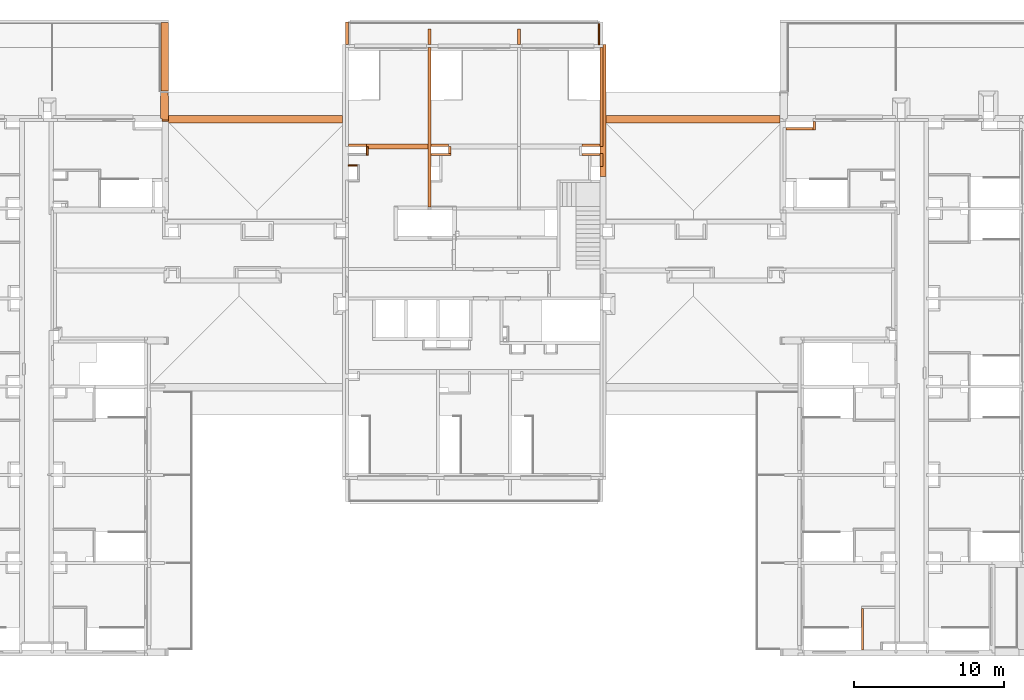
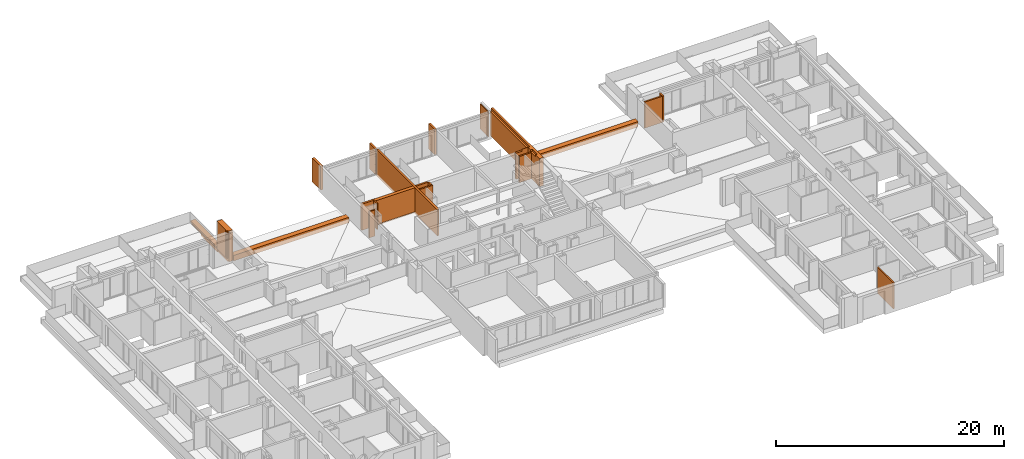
# One storey, part 25 of 30: 22 proxies, 1 opening.
"""IFC2X3 building model written with IfcOpenShell, lengths in millimetres."""

from ifc_helpers import new_model, entity, si_unit, converted_unit, derived_unit, money_unit, direction, frame, origin_with_axes, origin_2d_with_axis, place, context, subcontext, project, spatial, rectangle, extrude, faceted_brep, material, material_list, type_object, element, save


model = new_model("IFC2X3")

# Units and contexts
model_context = context("Model", 3, precision=0.01, world=origin_with_axes(), true_north=direction((0.34421633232, 0.938890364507)))
body_context = subcontext(model_context, "Body", "Model", "MODEL_VIEW")
ifc_project = project(units=[si_unit("LENGTHUNIT", "METRE", prefix="MILLI"), si_unit("AREAUNIT", "SQUARE_METRE"), si_unit("VOLUMEUNIT", "CUBIC_METRE"), converted_unit("PLANEANGLEUNIT", "DEGREE", entity("IfcPlaneAngleMeasure", 0.0174532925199), si_unit("PLANEANGLEUNIT", "RADIAN"), dimensions=[0, 0, 0, 0, 0, 0, 0]), si_unit("SOLIDANGLEUNIT", "STERADIAN"), money_unit("USD"), converted_unit("TIMEUNIT", "Year", entity("IfcTimeMeasure", 31556926.0), si_unit("TIMEUNIT", "SECOND"), dimensions=[0, 0, 1, 0, 0, 0, 0]), si_unit("MASSUNIT", "GRAM", prefix="KILO"), si_unit("THERMODYNAMICTEMPERATUREUNIT", "DEGREE_CELSIUS"), si_unit("LUMINOUSINTENSITYUNIT", "LUMEN"), si_unit("ENERGYUNIT", "JOULE", prefix="MEGA"), derived_unit("THERMALCONDUCTANCEUNIT", [(si_unit("POWERUNIT", "WATT"), 1), (si_unit("LENGTHUNIT", "METRE"), -1), (si_unit("THERMODYNAMICTEMPERATUREUNIT", "KELVIN"), -1)]), derived_unit("SPECIFICHEATCAPACITYUNIT", [(si_unit("ENERGYUNIT", "JOULE"), 1), (si_unit("MASSUNIT", "GRAM", prefix="KILO"), -1), (si_unit("THERMODYNAMICTEMPERATUREUNIT", "KELVIN"), -1)]), derived_unit("MASSDENSITYUNIT", [(si_unit("MASSUNIT", "GRAM", prefix="KILO"), 1), (si_unit("VOLUMEUNIT", "CUBIC_METRE"), -1)])], contexts=[model_context])

# Site, building, storey
site_placement = place(None, origin_with_axes())
site = spatial("IfcSite", under=ifc_project, at=site_placement, Name="USTRONIE MORSKIE", CompositionType="ELEMENT")
building_placement = place(site_placement, origin_with_axes())
building = spatial("IfcBuilding", under=site, at=building_placement, Name="Budynek", CompositionType="ELEMENT")
storey_placement = place(building_placement, frame((0.0, 0.0, 16000.0), z_axis=(0.0, 0.0, 1.0), x_axis=(1.0, 0.0, 0.0)))
storey = spatial("IfcBuildingStorey", under=building, at=storey_placement, Name="ANTRESOLA - KOND. TECHNICZNA", CompositionType="ELEMENT", Elevation=16000.0)

# Proxies
ifc_material_1 = material(Name="Bloczki silikatowe")
building_element_proxy_type_1 = type_object("IfcBuildingElementProxyType", Name="Bloczki silikatowe 120", PredefinedType="NOTDEFINED")
proxy_1_placement = place(storey_placement, frame((380617.911959, 743031.199021, -160.0), z_axis=(0.0, 0.0, 1.0), x_axis=(0.0, -1.0, 0.0)))
element("IfcBuildingElementProxy", 1, at=proxy_1_placement, inside=storey, type_object=building_element_proxy_type_1, material=ifc_material_1, Name="SW-04", context=body_context, shape_type="Brep", body=[
    faceted_brep([(659.999084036, 120.0, 0.0), (90.0, 120.0, 0.0), (90.0, 120.0, 2800.0), (659.999084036, 120.0, 2800.0), (659.999084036, 0.0, 0.0), (90.0, 0.0, 0.0), (90.0, 0.0, 2800.0), (659.999084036, 0.0, 2800.0)], [[[0, 1, 2, 3]], [[4, 5, 1, 0]], [[5, 6, 2, 1]], [[3, 2, 6, 7]], [[4, 0, 3, 7]], [[7, 6, 5, 4]]]),
])
proxy_2_placement = place(storey_placement, frame((413777.920919, 712141.199036, -159.999998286), z_axis=(0.0, 0.0, 1.0), x_axis=(0.0, -1.0, 0.0)))
element("IfcBuildingElementProxy", 2, at=proxy_2_placement, inside=storey, type_object=building_element_proxy_type_1, material=ifc_material_1, Name="SW-04", context=body_context, shape_type="Brep", body=[
    faceted_brep([(2839.99999956, -59.9999999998, 2800.0), (2839.99999956, 60.0000000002, 2800.0), (59.9999999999, 60.0, 2800.0), (59.9999999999, -60.0, 2800.0), (2839.99999956, -59.9999999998, 0.0), (2839.99999956, 60.0000000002, 0.0), (59.9999999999, 60.0, 0.0), (59.9999999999, -60.0, 0.0)], [[[0, 1, 2, 3]], [[1, 0, 4, 5]], [[1, 5, 6, 2]], [[7, 3, 2, 6]], [[4, 0, 3, 7]], [[5, 4, 7, 6]]]),
])
proxy_3_placement = place(storey_placement, frame((379317.920919, 741621.189659, -160.0), z_axis=(0.0, 0.0, 1.0), x_axis=(1.0, 0.0, 0.0)))
element("IfcBuildingElementProxy", 3, at=proxy_3_placement, inside=storey, type_object=building_element_proxy_type_1, material=ifc_material_1, Name="SW-04", context=body_context, shape_type="Brep", body=[
    faceted_brep([(700.001499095, 120.0, 0.0), (700.001499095, 0.0, 0.0), (100.0, 0.0, 0.0), (100.0, 120.0, 0.0), (700.001499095, 120.0, 2800.0), (700.001499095, 0.0, 2800.0), (100.0, 0.0, 2800.0), (100.0, 120.0, 2800.0)], [[[0, 1, 2, 3]], [[1, 0, 4, 5]], [[1, 5, 6, 2]], [[7, 3, 2, 6]], [[4, 0, 3, 7]], [[5, 4, 7, 6]]]),
])
ifc_material_2 = material(Name="Tynk zewnętrzny")
ifc_material_3 = material(Name="Wełna ELEW")
ifc_material_4 = material(Name="Beton konstrukcyjny B25")
ifc_material_list_1 = material_list([ifc_material_2, ifc_material_3, ifc_material_4])
building_element_proxy_type_2 = type_object("IfcBuildingElementProxyType", Name="20+20 410", PredefinedType="NOTDEFINED")
proxy_4_placement = place(storey_placement, frame((396317.920919, 749451.199036, -160.0), z_axis=(0.0, 0.0, 1.0), x_axis=(0.0, -1.0, 0.0)))
element("IfcBuildingElementProxy", 4, at=proxy_4_placement, inside=storey, type_object=building_element_proxy_type_2, material=ifc_material_list_1, Name="Œciana-006", context=body_context, shape_type="Brep", body=[
    faceted_brep([(4949.99999999, 300.000000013, 5.0), (4950.0, 300.0, 436.111989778), (8520.0, 300.000026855, 436.111988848), (8520.0, 300.0, 3000.0), (-310.0, 300.0, 3000.0), (-310.0, 300.0, 239.99999792), (4750.0, 300.0, 240.0), (4750.0, 300.0, 5.0), (4949.99999999, 310.0, 5.0), (4950.0, 310.0, 436.111989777), (4960.0, 310.0, 435.911989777), (8520.0, 310.0, 435.911989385), (8520.0, 310.0, 3000.0), (-310.0, 310.0, 3000.0), (-310.0, 310.0, 239.99999792), (4750.0, 310.0, 240.0), (4750.0, 310.0, 5.0)], [[[0, 1, 2, 3, 4, 5, 6, 7]], [[1, 0, 8, 9]], [[2, 1, 10, 11]], [[3, 2, 11, 12]], [[4, 3, 12, 13]], [[5, 4, 13, 14]], [[6, 5, 14, 15]], [[7, 6, 15, 16]], [[0, 7, 16, 8]], [[10, 9, 8, 16, 15, 14, 13, 12, 11]], [[10, 1, 9]]]),
    faceted_brep([(-300.0, 300.0, 3000.0), (8520.0, 300.0, 3000.0), (8520.0, 300.0, 5.0), (4750.0, 300.0, 5.0), (4750.0, 300.0, 240.0), (-300.0, 300.0, 239.99999792), (-300.0, 110.0, 3000.0), (-99.9999999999, 110.0, 3000.0), (-99.9999999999, 100.0, 3000.0), (8520.0, 100.0, 3000.0), (8520.0, 100.000000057, 5.0), (4750.0, 100.000000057, 5.0), (4750.0, 100.0, 240.0), (-300.0, 100.0, 239.99999792), (-300.0, 100.0, 2780.0), (-300.0, 110.0, 2780.0), (-99.9999999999, 110.0, 2780.0), (-99.9999999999, 100.0, 2780.0)], [[[0, 1, 2, 3, 4, 5]], [[0, 6, 7, 8, 9, 1]], [[1, 9, 10, 2]], [[2, 10, 11, 3]], [[12, 4, 3, 11]], [[12, 13, 5, 4]], [[5, 13, 14, 15, 6, 0]], [[15, 16, 7, 6]], [[16, 17, 8, 7]], [[13, 12, 11, 10, 9, 8, 17, 14]], [[17, 16, 15, 14]]]),
    faceted_brep([(-100.0, -100.0, 2800.0), (-100.0, 100.0, 2800.0), (-100.0, 100.0, 239.99999792), (-100.0, -100.0, 239.99999792), (6509.72243682, 99.9942804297, 2800.0), (6509.72243682, -100.0, 2800.0), (6509.72243682, 99.9942804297, 3000.0), (6959.99909883, 100.0, 3000.0), (6959.99909883, 100.0, 2800.0), (7830.00937687, 100.0, 2800.0), (7830.00937687, 100.0, 3000.0), (8520.0, 100.0, 3000.0), (8520.0, 100.0, 0.0), (4750.0, 100.0, -2.07957562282e-06), (4750.0, 100.0, 240.0), (4750.0, -100.0, 240.0), (4750.0, -100.0, -2.07957562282e-06), (8520.0, -100.0, 0.0), (8520.0, -100.0, 3000.0), (7830.00937687, -100.0, 3000.0), (7830.00937687, -100.0, 2800.0), (6959.99909883, -100.0, 2800.0), (6959.99909883, -100.0, 3000.0), (6509.72243682, -100.0, 3000.0)], [[[0, 1, 2, 3]], [[4, 1, 0, 5]], [[4, 6, 7, 8, 9, 10, 11, 12, 13, 14, 2, 1]], [[2, 14, 15, 3]], [[5, 0, 3, 15, 16, 17, 18, 19, 20, 21, 22, 23]], [[23, 6, 4, 5]], [[6, 23, 22, 7]], [[8, 7, 22, 21]], [[9, 8, 21, 20]], [[19, 10, 9, 20]], [[10, 19, 18, 11]], [[17, 12, 11, 18]], [[17, 16, 13, 12]], [[15, 14, 13, 16]]]),
])
building_element_proxy_type_3 = type_object("IfcBuildingElementProxyType", Name="Bloczki silikatowe 180", PredefinedType="NOTDEFINED")
proxy_5_placement = place(storey_placement, frame((380617.911959, 743031.199021, -160.0), z_axis=(0.0, 0.0, 1.0), x_axis=(-1.0, 0.0, 0.0)))
element("IfcBuildingElementProxy", 5, at=proxy_5_placement, inside=storey, type_object=building_element_proxy_type_3, material=ifc_material_1, Name="SW-02", context=body_context, shape_type="Brep", body=[
    faceted_brep([(1199.99104009, -90.0, 0.0), (1199.99104009, -90.0, 2800.0), (0.0, -90.0, 2800.0), (0.0, -90.0, 0.0), (1199.99104009, 90.0, 0.0), (1199.99104009, 89.9999999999, 2800.0), (0.0, 90.0, 2800.0), (599.987632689, 89.9999999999, 2800.0), (0.0, 90.0, 0.0)], [[[0, 1, 2, 3]], [[4, 5, 1, 0]], [[6, 2, 1, 5, 7]], [[3, 2, 6, 8]], [[4, 0, 3, 8]], [[6, 7, 5, 4, 8]]]),
])
proxy_6_placement = place(storey_placement, frame((396317.920919, 743031.199021, -160.0), z_axis=(0.0, 0.0, 1.0), x_axis=(-1.0, 0.0, 0.0)))
element("IfcBuildingElementProxy", 6, at=proxy_6_placement, inside=storey, type_object=building_element_proxy_type_3, material=ifc_material_1, Name="SW-02", context=body_context, shape_type="Brep", body=[
    faceted_brep([(1300.00065043, -90.0, 0.0), (1300.00065043, -90.0, 2800.0), (100.0, -90.0, 2800.0), (100.0, -90.0, 0.0), (1300.00065043, 90.0, 0.0), (1300.00065043, 90.0, 2800.0), (100.0, 89.7224220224, 2800.0), (700.011101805, 90.0, 2800.0), (700.011101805, 89.7224220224, 2800.0), (100.0, 89.7224220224, 3000.0), (100.0, 90.0, 3000.0), (100.0, 90.0, 0.0), (700.011101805, 90.0, 3000.0), (700.011101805, 89.7224220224, 3000.0)], [[[0, 1, 2, 3]], [[4, 5, 1, 0]], [[6, 2, 1, 5, 7, 8]], [[2, 6, 9, 10, 11, 3]], [[4, 0, 3, 11]], [[12, 7, 5, 4, 11, 10]], [[7, 12, 13, 8]], [[6, 8, 13, 9]], [[9, 13, 12, 10]]]),
])
proxy_7_placement = place(storey_placement, frame((386117.924326, 743031.199021, -160.0), z_axis=(0.0, 0.0, 1.0), x_axis=(-1.0, 0.0, 0.0)))
element("IfcBuildingElementProxy", 7, at=proxy_7_placement, inside=storey, type_object=building_element_proxy_type_3, material=ifc_material_1, Name="SW-02", context=body_context, shape_type="Brep", body=[
    faceted_brep([(1200.0034074, -90.0, 2800.0), (0.0, -90.0, 2800.0), (0.0, -90.0, 0.0), (1200.0034074, -90.0, 0.0), (1200.0034074, 90.0, 2800.0), (0.0, 90.0, 2800.0), (0.0, 90.0, 0.0), (1200.0034074, 90.0, 0.0)], [[[0, 1, 2, 3]], [[4, 5, 1, 0]], [[2, 1, 5, 6]], [[2, 6, 7, 3]], [[7, 4, 0, 3]], [[6, 5, 4, 7]]]),
])
building_element_proxy_type_4 = type_object("IfcBuildingElementProxyType", Name="Bloczki silikatowe 150", PredefinedType="NOTDEFINED")
proxy_8_placement = place(storey_placement, frame((386117.924326, 743031.199021, -160.0), z_axis=(0.0, 0.0, 1.0), x_axis=(0.0, -1.0, 0.0)))
element("IfcBuildingElementProxy", 8, at=proxy_8_placement, inside=storey, type_object=building_element_proxy_type_4, material=ifc_material_1, Name="SW-04", context=body_context, shape_type="Brep", body=[
    faceted_brep([(539.999084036, 150.0, 0.0), (90.0, 150.0, 0.0), (90.0, 150.0, 2800.0), (539.999084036, 150.0, 2800.0), (539.999084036, 0.0, 0.0), (90.0, 0.0, 0.0), (90.0, 0.0, 2800.0), (539.999084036, 0.0, 2800.0)], [[[0, 1, 2, 3]], [[4, 5, 1, 0]], [[5, 6, 2, 1]], [[3, 2, 6, 7]], [[4, 0, 3, 7]], [[7, 6, 5, 4]]]),
])
proxy_9_placement = place(storey_placement, frame((384817.920919, 742491.199937, -160.0), z_axis=(0.0, 0.0, 1.0), x_axis=(1.0, 0.0, 0.0)))
element("IfcBuildingElementProxy", 9, at=proxy_9_placement, inside=storey, type_object=building_element_proxy_type_4, material=ifc_material_1, Name="SW-04", context=body_context, shape_type="Brep", body=[
    faceted_brep([(1450.0034074, -150.0, 2800.0), (1450.0034074, 0.0, 2800.0), (100.0, 0.0, 2800.0), (100.0, -150.0, 2800.0), (1450.0034074, -150.0, 0.0), (1450.0034074, 0.0, 0.0), (100.0, 0.0, 0.0), (100.0, -150.0, 0.0)], [[[0, 1, 2, 3]], [[1, 0, 4, 5]], [[1, 5, 6, 2]], [[7, 3, 2, 6]], [[4, 0, 3, 7]], [[5, 4, 7, 6]]]),
])
proxy_10_placement = place(storey_placement, frame((410552.940089, 744126.199036, -160.0), z_axis=(0.0, 0.0, 1.0), x_axis=(-1.0, 0.0, 0.0)))
element("IfcBuildingElementProxy", 10, at=proxy_10_placement, inside=storey, type_object=building_element_proxy_type_4, material=ifc_material_1, Name="SW-03", context=body_context, shape_type="Brep", body=[
    faceted_brep([(1885.01916964, 75.0, 0.0), (1885.01916964, -75.0, 0.0), (75.0, -75.0, 0.0), (75.0, 75.0, 0.0), (1885.01916964, 75.0, 2800.0), (1885.01916964, -75.0, 2800.0), (75.0, -75.0, 2800.0), (75.0, 75.0, 2800.0)], [[[0, 1, 2, 3]], [[1, 0, 4, 5]], [[1, 5, 6, 2]], [[7, 3, 2, 6]], [[4, 0, 3, 7]], [[5, 4, 7, 6]]]),
])
proxy_11_placement = place(storey_placement, frame((410552.940089, 744701.199036, -160.0), z_axis=(0.0, 0.0, 1.0), x_axis=(0.0, -1.0, 0.0)))
element("IfcBuildingElementProxy", 11, at=proxy_11_placement, inside=storey, type_object=building_element_proxy_type_4, material=ifc_material_1, Name="SW-03", context=body_context, shape_type="Brep", body=[
    faceted_brep([(650.0, 75.0, 0.0), (650.0, -75.0, 0.0), (100.0, -75.0, 0.0), (100.0, 75.0, 0.0), (650.0, 75.0, 2800.0), (650.0, -75.0, 2800.0), (100.0, -75.0, 2800.0), (100.0, 75.0, 2800.0)], [[[0, 1, 2, 3]], [[1, 0, 4, 5]], [[1, 5, 6, 2]], [[7, 3, 2, 6]], [[4, 0, 3, 7]], [[5, 4, 7, 6]]]),
])
proxy_12_placement = place(storey_placement, frame((395017.920269, 742491.199937, -160.0), z_axis=(0.0, 0.0, 1.0), x_axis=(1.0, 0.0, 0.0)))
element("IfcBuildingElementProxy", 12, at=proxy_12_placement, inside=storey, type_object=building_element_proxy_type_4, material=ifc_material_1, Name="SW-02", context=body_context, shape_type="Brep", body=[
    faceted_brep([(1200.00065043, -150.0, 2800.0), (1200.00065043, 0.0, 2800.0), (0.0, 0.0, 2800.0), (0.0, -150.0, 2800.0), (1200.00065043, -150.0, 0.0), (1200.00065043, 0.0, 0.0), (0.0, 0.0, 0.0), (0.0, -150.0, 0.0)], [[[0, 1, 2, 3]], [[1, 0, 4, 5]], [[1, 5, 6, 2]], [[7, 3, 2, 6]], [[4, 0, 3, 7]], [[5, 4, 7, 6]]]),
])
building_element_proxy_type_5 = type_object("IfcBuildingElementProxyType", Name="Beton konstrukcyjny B25 200", PredefinedType="NOTDEFINED")
proxy_13_placement = place(storey_placement, frame((384817.920919, 749451.199036, -160.0), z_axis=(0.0, 0.0, 1.0), x_axis=(0.0, -1.0, 0.0)))
element("IfcBuildingElementProxy", 13, at=proxy_13_placement, inside=storey, type_object=building_element_proxy_type_5, material=ifc_material_4, Name="SW-01", context=body_context, shape_type="Brep", body=[
    faceted_brep([(10550.0, 100.0, 0.0), (10550.0, -100.0, 0.0), (-100.0, -100.0, 0.0), (-100.0, 100.0, 0.0), (10550.0, 100.0, 2800.0), (10550.0, -100.0, 2800.0), (-100.0, -100.0, 2800.0), (-100.0, 100.0, 2800.0)], [[[0, 1, 2, 3]], [[1, 0, 4, 5]], [[1, 5, 6, 2]], [[7, 3, 2, 6]], [[4, 0, 3, 7]], [[5, 4, 7, 6]]]),
])
building_element_proxy_type_6 = type_object("IfcBuildingElementProxyType", Name="Bloczki silikatowe 200", PredefinedType="NOTDEFINED")
for number, where, z_axis, x_axis, name in (
    (14, (390817.920919, 749751.199036, -160.0), (0.0, 0.0, 1.0), (0.0, 1.0, 0.0), "SW-01"),
    (15, (384817.920919, 749751.199036, -160.0), (0.0, 0.0, 1.0), (0.0, 1.0, 0.0), "SW-01"),
):
    element("IfcBuildingElementProxy", number, at=place(storey_placement, frame(where, z_axis=z_axis, x_axis=x_axis)), inside=storey, type_object=building_element_proxy_type_6, material=ifc_material_1, Name=name, context=body_context, shape_type="Brep", body=[
        faceted_brep([(0.0, 100.0, 0.0), (1050.0, 100.0, 0.0), (1050.0, -100.0, 0.0), (0.0, -100.0, 0.0), (0.0, 100.0, 2700.0), (1050.0, 100.0, 2700.0), (1050.0, -100.0, 2700.0), (0.0, -100.0, 2700.0)], [[[0, 1, 2, 3]], [[4, 5, 1, 0]], [[2, 1, 5, 6]], [[3, 2, 6, 7]], [[4, 0, 3, 7]], [[7, 6, 5, 4]]]),
    ])
ifc_material_5 = material(Name="Laminat")
building_element_proxy_type_7 = type_object("IfcBuildingElementProxyType", Name="Laminat 80", PredefinedType="NOTDEFINED")
proxy_14_placement = place(storey_placement, frame((396167.920919, 749761.199036, -160.0), z_axis=(0.0, 0.0, 1.0), x_axis=(0.0, 1.0, 0.0)))
element("IfcBuildingElementProxy", 16, at=proxy_14_placement, inside=storey, type_object=building_element_proxy_type_7, material=ifc_material_5, Name="Œciana-008", context=body_context, shape_type="Brep", body=[
    faceted_brep([(0.0, -40.0, 0.0), (0.0, 40.0, 0.0), (1390.0, 40.0, 0.0), (1390.0, -40.0, 0.0), (0.0, -40.0, 2700.0), (0.0, 40.0, 2700.0), (1390.0, 40.0, 2700.0), (1390.0, -40.0, 2700.0)], [[[0, 1, 2, 3]], [[4, 5, 1, 0]], [[1, 5, 6, 2]], [[7, 3, 2, 6]], [[4, 0, 3, 7]], [[5, 4, 7, 6]]]),
])
ifc_material_list_2 = material_list([ifc_material_2, ifc_material_3, ifc_material_1, ifc_material_3, ifc_material_2])
building_element_proxy_type_8 = type_object("IfcBuildingElementProxyType", Name="18 SILIKAT+20-10 500", PredefinedType="NOTDEFINED")
proxy_15_placement = place(storey_placement, frame((408257.920919, 744701.199036, -160.00000206), z_axis=(0.0, 0.0, 1.0), x_axis=(-1.0, 0.0, 0.0)))
element("IfcBuildingElementProxy", 17, at=proxy_15_placement, inside=storey, type_object=building_element_proxy_type_8, material=ifc_material_list_2, Name="Œciana-006", context=body_context, shape_type="Brep", body=[
    faceted_brep([(0.0, 200.0, 5.00000206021), (0.0, 190.0, 5.00000206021), (0.0, 190.0, 600.0), (0.0, 200.0, 600.0), (11640.0, 190.0, 5.00000206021), (11640.0, 200.0, 5.00000206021), (11640.0, 190.0, 600.0), (11640.0, 200.0, 600.0)], [[[0, 1, 2, 3]], [[4, 1, 0, 5]], [[1, 4, 6, 2]], [[2, 6, 7, 3]], [[5, 0, 3, 7]], [[4, 5, 7, 6]]]),
    faceted_brep([(0.0, 190.0, 5.00000206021), (0.0, 90.0, 5.00000206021), (0.0, 90.0, 600.0), (0.0, 190.0, 600.0), (11640.0, 90.0, 5.00000206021), (11640.0, 190.0, 5.00000206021), (11640.0, 90.0, 600.0), (11640.0, 190.0, 600.0)], [[[0, 1, 2, 3]], [[4, 1, 0, 5]], [[1, 4, 6, 2]], [[2, 6, 7, 3]], [[5, 0, 3, 7]], [[4, 5, 7, 6]]]),
    faceted_brep([(11640.0, 90.0, 0.0), (11640.0, -90.0, 0.0), (0.0, -90.0, 0.0), (0.0, 90.0, 0.0), (11640.0, 90.0, 600.0), (11640.0, -90.0, 600.0), (0.0, -90.0, 600.0), (0.0, 90.0, 600.0)], [[[0, 1, 2, 3]], [[0, 4, 5, 1]], [[1, 5, 6, 2]], [[3, 2, 6, 7]], [[4, 0, 3, 7]], [[5, 4, 7, 6]]]),
    faceted_brep([(11640.0, -90.0, 0.0), (11640.0, -290.0, 0.0), (0.0, -290.0, 0.0), (0.0, -90.0, 0.0), (11640.0, -90.0, 600.0), (11640.0, -290.0, 600.0), (0.0, -290.0, 600.0), (0.0, -90.0, 600.0)], [[[0, 1, 2, 3]], [[0, 4, 5, 1]], [[1, 5, 6, 2]], [[3, 2, 6, 7]], [[4, 0, 3, 7]], [[5, 4, 7, 6]]]),
    faceted_brep([(11640.0, -290.0, 0.0), (11640.0, -300.0, 0.0), (0.0, -300.0, 0.0), (0.0, -290.0, 0.0), (11640.0, -290.0, 600.0), (11640.0, -300.0, 600.0), (0.0, -300.0, 600.0), (0.0, -290.0, 600.0)], [[[0, 1, 2, 3]], [[0, 4, 5, 1]], [[1, 5, 6, 2]], [[3, 2, 6, 7]], [[4, 0, 3, 7]], [[5, 4, 7, 6]]]),
])
proxy_16_placement = place(storey_placement, frame((367167.920919, 746651.199036, -360.0), z_axis=(0.0, 0.0, 1.0), x_axis=(0.0, 1.0, 0.0)))
element("IfcBuildingElementProxy", 18, at=proxy_16_placement, inside=storey, type_object=building_element_proxy_type_8, material=ifc_material_list_2, Name="Œciana-006", context=body_context, shape_type="Brep", body=[
    faceted_brep([(4590.00265249, 280.0, 439.99999792), (4590.00265249, 280.0, 600.0), (0.0, 280.0, 600.0), (0.0, 280.0, 439.99999792), (4590.00265249, 290.0, 439.99999792), (4590.00265249, 290.0, 600.0), (0.0, 290.0, 600.0), (0.0, 290.0, 439.99999792)], [[[0, 1, 2, 3]], [[0, 4, 5, 1]], [[1, 5, 6, 2]], [[7, 3, 2, 6]], [[4, 0, 3, 7]], [[4, 7, 6, 5]]]),
    faceted_brep([(2900.0, 180.0, 439.99999792), (4590.00265249, 180.0, 439.99999792), (4590.00265249, 180.0, 600.0), (0.0, 180.0, 600.0), (0.0, 180.0, 0.0), (2900.0, 180.0, -2.07957562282e-06), (4590.00265249, 280.0, 439.99999792), (2900.0, 199.99340486, 439.99999792), (0.0, 199.99340486, 439.99999792), (0.0, 280.0, 439.99999792), (4590.00265249, 280.0, 600.0), (0.0, 280.0, 600.0), (0.0, 199.99340486, -2.07957562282e-06), (2900.0, 199.99340486, -2.07957562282e-06)], [[[0, 1, 2, 3, 4, 5]], [[6, 1, 0, 7, 8, 9]], [[1, 6, 10, 2]], [[2, 10, 11, 3]], [[8, 12, 4, 3, 11, 9]], [[13, 5, 4, 12]], [[7, 0, 5, 13]], [[7, 13, 12, 8]], [[6, 9, 11, 10]]]),
    faceted_brep([(2900.0, 3.41060513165e-10, -2.07957562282e-06), (2900.0, 3.41060513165e-10, 199.99999792), (4590.00265249, 0.0, 199.99999792), (4590.00265249, 0.0, 600.0), (0.0, 0.0, 600.0), (0.0, 0.0, 0.0), (2900.0, 180.0, -2.07957562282e-06), (2900.0, 180.0, 199.99999792), (4590.00265249, 180.0, 199.99999792), (4590.00265249, 180.0, 600.0), (0.0, 180.0, 600.0), (0.0, 180.0, 0.0)], [[[0, 1, 2, 3, 4, 5]], [[1, 0, 6, 7]], [[8, 2, 1, 7]], [[2, 8, 9, 3]], [[3, 9, 10, 4]], [[10, 11, 5, 4]], [[6, 0, 5, 11]], [[7, 6, 11, 10, 9, 8]]]),
    faceted_brep([(4590.00265249, 0.0, 0.0), (4590.00265249, -200.0, 0.0), (0.0, -200.0, 0.0), (0.0, 0.0, 0.0), (4590.00265249, 0.0, 600.0), (4590.00265249, -200.0, 600.0), (0.0, -200.0, 600.0), (0.0, 0.0, 600.0)], [[[0, 1, 2, 3]], [[1, 0, 4, 5]], [[1, 5, 6, 2]], [[7, 3, 2, 6]], [[4, 0, 3, 7]], [[5, 4, 7, 6]]]),
    faceted_brep([(4590.00265249, -210.0, 0.0), (0.0, -210.0, 0.0), (0.0, -200.0, 0.0), (4590.00265249, -200.0, 0.0), (4590.00265249, -210.0, 600.0), (0.0, -210.0, 600.0), (0.0, -200.0, 600.0), (4590.00265249, -200.0, 600.0)], [[[0, 1, 2, 3]], [[4, 5, 1, 0]], [[2, 1, 5, 6]], [[3, 2, 6, 7]], [[3, 7, 4, 0]], [[7, 6, 5, 4]]]),
])
proxy_17_placement = place(storey_placement, frame((367367.920919, 744701.199036, -160.00000206), z_axis=(0.0, 0.0, 1.0), x_axis=(1.0, 0.0, 0.0)))
element("IfcBuildingElementProxy", 19, at=proxy_17_placement, inside=storey, type_object=building_element_proxy_type_8, material=ifc_material_list_2, Name="Œciana-006", context=body_context, shape_type="Brep", body=[
    faceted_brep([(11650.0, 290.0, 600.0), (11650.0, 300.0, 600.0), (0.0, 300.0, 600.0), (0.0, 290.0, 600.0), (11650.0, 290.0, 0.0), (11650.0, 300.0, 0.0), (0.0, 300.0, 0.0), (0.0, 290.0, 0.0)], [[[0, 1, 2, 3]], [[0, 4, 5, 1]], [[1, 5, 6, 2]], [[3, 2, 6, 7]], [[4, 0, 3, 7]], [[5, 4, 7, 6]]]),
    faceted_brep([(11650.0, 90.0, 600.0), (11650.0, 290.0, 600.0), (0.0, 290.0, 600.0), (0.0, 90.0, 600.0), (11650.0, 90.0, 0.0), (11650.0, 290.0, 0.0), (0.0, 290.0, 0.0), (0.0, 90.0, 0.0)], [[[0, 1, 2, 3]], [[0, 4, 5, 1]], [[1, 5, 6, 2]], [[3, 2, 6, 7]], [[4, 0, 3, 7]], [[5, 4, 7, 6]]]),
    faceted_brep([(11650.0, -90.0, 600.0), (11650.0, 90.0, 600.0), (0.0, 90.0, 600.0), (0.0, -90.0, 600.0), (11650.0, -90.0, 0.0), (11650.0, 90.0, 0.0), (0.0, 90.0, 0.0), (0.0, -90.0, 0.0)], [[[0, 1, 2, 3]], [[0, 4, 5, 1]], [[1, 5, 6, 2]], [[3, 2, 6, 7]], [[4, 0, 3, 7]], [[5, 4, 7, 6]]]),
    faceted_brep([(11650.0, -190.0, 5.00000206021), (11650.0, -90.0, 5.00000206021), (11650.0, -90.0, 600.0), (11650.0, -190.0, 600.0), (0.0, -90.0, 5.00000206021), (0.0, -190.0, 5.00000206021), (0.0, -90.0, 600.0), (0.0, -190.0, 600.0)], [[[0, 1, 2, 3]], [[4, 1, 0, 5]], [[1, 4, 6, 2]], [[7, 3, 2, 6]], [[5, 0, 3, 7]], [[4, 5, 7, 6]]]),
    faceted_brep([(11650.0, -200.0, 5.00000206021), (11650.0, -190.0, 5.00000206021), (11650.0, -190.0, 600.0), (11650.0, -200.0, 600.0), (0.0, -190.0, 5.00000206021), (0.0, -200.0, 5.00000206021), (0.0, -190.0, 600.0), (0.0, -200.0, 600.0)], [[[0, 1, 2, 3]], [[4, 1, 0, 5]], [[1, 4, 6, 2]], [[7, 3, 2, 6]], [[5, 0, 3, 7]], [[4, 5, 7, 6]]]),
])
ifc_material_list_3 = material_list([ifc_material_2, ifc_material_1, ifc_material_2])
building_element_proxy_type_9 = type_object("IfcBuildingElementProxyType", Name="BALKON bok 04 220", PredefinedType="NOTDEFINED")
proxy_18_placement = place(storey_placement, frame((379317.920919, 749761.199036, 79.9999979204), z_axis=(0.0, 0.0, 1.0), x_axis=(0.0, 1.0, 0.0)))
element("IfcBuildingElementProxy", 20, at=proxy_18_placement, inside=storey, type_object=building_element_proxy_type_9, material=ifc_material_list_3, Name="Œciana-008", context=body_context, shape_type="Brep", body=[
    faceted_brep([(0.0, 100.0, 2540.00000208), (1490.0, 100.0, 2540.00000208), (1490.0, 110.0, 2540.00000208), (0.0, 110.0, 2540.00000208), (0.0, 100.0, 0.0), (1490.0, 100.0, 0.0), (1490.0, 110.0, 0.0), (0.0, 110.0, 0.0)], [[[0, 1, 2, 3]], [[4, 5, 1, 0]], [[2, 1, 5, 6]], [[3, 2, 6, 7]], [[4, 0, 3, 7]], [[7, 6, 5, 4]]]),
    faceted_brep([(0.0, -100.0, 2540.00000208), (1490.0, -100.0, 2540.00000208), (1490.0, 100.0, 2540.00000208), (0.0, 100.0, 2540.00000208), (0.0, -100.0, 0.0), (1490.0, -100.0, 0.0), (1490.0, 100.0, 0.0), (0.0, 100.0, 0.0)], [[[0, 1, 2, 3]], [[4, 5, 1, 0]], [[2, 1, 5, 6]], [[3, 2, 6, 7]], [[4, 0, 3, 7]], [[7, 6, 5, 4]]]),
    faceted_brep([(0.0, -110.0, 2540.00000208), (1490.0, -110.0, 2540.00000208), (1490.0, -100.0, 2540.00000208), (0.0, -100.0, 2540.00000208), (0.0, -110.0, 0.0), (1490.0, -110.0, 0.0), (1490.0, -100.0, 0.0), (0.0, -100.0, 0.0)], [[[0, 1, 2, 3]], [[4, 5, 1, 0]], [[2, 1, 5, 6]], [[3, 2, 6, 7]], [[4, 0, 3, 7]], [[7, 6, 5, 4]]]),
])
ifc_material_list_4 = material_list([ifc_material_2, ifc_material_3, ifc_material_1])
building_element_proxy_type_10 = type_object("IfcBuildingElementProxyType", Name="18+15 AKU 340", PredefinedType="NOTDEFINED")
proxy_19_placement = place(storey_placement, frame((384917.920919, 743031.199021, -160.0), z_axis=(0.0, 0.0, 1.0), x_axis=(-1.0, 0.0, 0.0)))
element("IfcBuildingElementProxy", 21, at=proxy_19_placement, inside=storey, type_object=building_element_proxy_type_10, material=ifc_material_list_4, Name="Œciana-007", context=body_context, shape_type="Brep", body=[
    faceted_brep([(4180.00895991, 240.0, 2800.0), (200.0, 240.0, 2800.0), (200.0, 240.0, 235.0), (4180.00895991, 240.0, 235.0), (200.0, 250.0, 2800.0), (4180.00895991, 250.0, 2800.0), (200.0, 250.0, 235.0), (4180.00895991, 250.0, 235.0)], [[[0, 1, 2, 3]], [[4, 1, 0, 5]], [[1, 4, 6, 2]], [[3, 2, 6, 7]], [[5, 0, 3, 7]], [[4, 5, 7, 6]]]),
    faceted_brep([(4180.00895991, 90.0, 2800.0), (200.0, 90.0, 2800.0), (200.0, 90.0, 235.0), (4180.00895991, 90.0, 235.0), (200.0, 240.0, 2800.0), (4180.00895991, 240.0, 2800.0), (200.0, 240.0, 235.0), (4180.00895991, 240.0, 235.0)], [[[0, 1, 2, 3]], [[4, 1, 0, 5]], [[1, 4, 6, 2]], [[3, 2, 6, 7]], [[5, 0, 3, 7]], [[4, 5, 7, 6]]]),
    faceted_brep([(4300.00895991, -90.0, 2800.0), (200.0, -90.0, 2800.0), (200.0, -90.0, 0.0), (4300.00895991, -90.0, 0.0), (200.0, 90.0, 2800.0), (4300.00895991, 90.0, 2800.0), (200.0, 90.0, 0.0), (4300.00895991, 90.0, 0.0)], [[[0, 1, 2, 3]], [[4, 1, 0, 5]], [[1, 4, 6, 2]], [[3, 2, 6, 7]], [[5, 0, 3, 7]], [[4, 5, 7, 6]]]),
])

# Proxy, opening
ifc_material_list_5 = material_list([ifc_material_2, ifc_material_3, ifc_material_4, ifc_material_3, ifc_material_2])
building_element_proxy_type_11 = type_object("IfcBuildingElementProxyType", Name="20+20-10 520", PredefinedType="NOTDEFINED")
proxy_20_placement = place(storey_placement, frame((367067.920919, 744701.199036, -245.0), z_axis=(0.0, 0.0, 1.0), x_axis=(0.0, 1.0, 0.0)))
proxy_20 = element("IfcBuildingElementProxy", 22, at=proxy_20_placement, inside=storey, type_object=building_element_proxy_type_11, material=ifc_material_list_5, Name="Œciana-007", context=body_context, shape_type="Brep", body=[
    faceted_brep([(300.0, 200.0, 324.99999792), (1950.0, 200.0, 324.99999792), (1950.0, 200.0, 3295.0), (300.0, 200.0, 3295.0), (1950.0, 210.0, 324.99999792), (300.0, 210.0, 324.99999792), (1950.0, 210.0, 3295.0), (300.0, 210.0, 3295.0)], [[[0, 1, 2, 3]], [[4, 1, 0, 5]], [[1, 4, 6, 2]], [[6, 7, 3, 2]], [[5, 0, 3, 7]], [[4, 5, 7, 6]]]),
    faceted_brep([(100.0, 99.9934048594, 324.99999792), (1950.0, 99.9934048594, 324.99999792), (1950.0, 100.0, 3295.0), (100.0, 100.0, 3295.0), (1950.0, 200.0, 324.99999792), (100.0, 200.0, 324.99999792), (1950.0, 200.0, 3295.0), (100.0, 200.0, 3295.0)], [[[0, 1, 2, 3]], [[4, 1, 0, 5]], [[1, 4, 6, 2]], [[6, 7, 3, 2]], [[5, 0, 3, 7]], [[4, 5, 7, 6]]]),
    faceted_brep([(-100.0, -100.0, 85.0), (100.0, -100.0, 85.0), (100.0, -100.0, 0.0), (1950.0, -100.0, 0.0), (1950.0, -100.0, 3295.0), (0.0, -100.0, 3295.00000179), (0.0, -100.0, 3085.0), (-100.0, -100.0, 3085.0), (100.0, 100.0, 85.0000000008), (-100.0, 100.0, 85.0000000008), (100.0, 100.0, 0.0), (1950.0, 100.0, 0.0), (1950.0, 100.0, 3295.0), (0.0, 100.0, 3295.00000179), (0.0, 100.0, 3085.0), (-100.0, 100.0, 3085.0)], [[[0, 1, 2, 3, 4, 5, 6, 7]], [[8, 1, 0, 9]], [[10, 2, 1, 8]], [[3, 2, 10, 11]], [[12, 4, 3, 11]], [[4, 12, 13, 5]], [[13, 14, 6, 5]], [[14, 15, 7, 6]], [[15, 9, 0, 7]], [[10, 8, 9, 15, 14, 13, 12, 11]]]),
    faceted_brep([(300.000287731, -300.0, 169.99999794), (300.000287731, -300.0, 194.99999794), (1899.99509907, -300.0, 194.99999794), (1899.99509907, -300.0, 169.99999794), (1899.99509907, -300.0, 89.9999979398), (1899.99509907, -300.0, 84.9999979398), (1899.99509907, -300.0, 0.0), (1950.0, -300.0, 0.0), (1950.0, -300.0, 3295.0), (0.0, -300.0, 3295.00000179), (0.0, -300.0, 3085.0), (-100.0, -300.0, 3085.0), (-100.0, -300.0, 90.0), (100.000211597, -300.0, 90.0), (100.000211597, -300.0, 85.0), (100.000211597, -300.0, 0.0), (300.000287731, -300.0, 0.0), (300.000287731, -300.0, 84.9999979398), (300.000287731, -300.0, 89.9999979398), (300.000287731, -100.0, 169.99999794), (300.000287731, -100.0, 194.99999794), (1899.99509907, -100.0, 194.99999794), (1899.99509907, -100.0, 169.99999794), (1899.99509907, -100.0, 89.9999979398), (1899.99509907, -100.0, 84.9999979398), (1899.99509907, -100.0, 0.0), (1950.0, -100.0, 0.0), (1950.0, -100.0, 3295.0), (0.0, -100.0, 3295.00000179), (0.0, -100.0, 3085.0), (-100.0, -100.0, 3085.0), (-100.0, -99.9999284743, 90.0), (100.000211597, -99.9999284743, 90.0), (100.000211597, -99.9999284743, 85.0), (100.000211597, -99.9999284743, 0.0), (300.000287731, -100.0, 0.0), (300.000287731, -100.0, 84.9999979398), (300.000287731, -100.0, 89.9999979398)], [[[0, 1, 2, 3, 4, 5, 6, 7, 8, 9, 10, 11, 12, 13, 14, 15, 16, 17, 18]], [[1, 0, 19, 20]], [[2, 1, 20, 21]], [[3, 2, 21, 22]], [[3, 22, 23, 4]], [[4, 23, 24, 5]], [[5, 24, 25, 6]], [[6, 25, 26, 7]], [[27, 8, 7, 26]], [[8, 27, 28, 9]], [[28, 29, 10, 9]], [[29, 30, 11, 10]], [[31, 12, 11, 30]], [[13, 12, 31, 32]], [[14, 13, 32, 33]], [[14, 33, 34, 15]], [[35, 16, 15, 34]], [[36, 17, 16, 35]], [[37, 18, 17, 36]], [[19, 0, 18, 37]], [[20, 19, 37, 36, 35, 34, 33, 32, 31, 30, 29, 28, 27, 26, 25, 24, 23, 22, 21]]]),
    faceted_brep([(300.000287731, -310.0, 169.99999794), (300.000287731, -310.0, 194.99999794), (1899.99509907, -310.0, 194.99999794), (1899.99509907, -310.0, 169.99999794), (1899.99509907, -310.0, 89.9999979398), (1899.99509907, -310.0, 84.9999979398), (1899.99509907, -310.0, 0.0), (1950.0, -310.0, 0.0), (1950.0, -310.0, 3295.0), (0.0, -310.0, 3295.00000179), (0.0, -310.0, 3085.0), (-100.0, -310.0, 3085.0), (-100.0, -310.0, 90.0), (100.000211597, -310.0, 90.0), (100.000211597, -310.0, 85.0), (100.000211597, -310.0, 0.0), (300.000287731, -310.0, 0.0), (300.000287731, -310.0, 84.9999979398), (300.000287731, -310.0, 89.9999979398), (300.000287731, -300.0, 169.99999794), (300.000287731, -300.0, 194.99999794), (1899.99509907, -300.0, 194.99999794), (1899.99509907, -300.0, 169.99999794), (1899.99509907, -300.0, 89.9999979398), (1899.99509907, -300.0, 84.9999979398), (1899.99509907, -300.0, 0.0), (1950.0, -300.0, 0.0), (1950.0, -300.0, 3295.0), (0.0, -300.0, 3295.00000179), (0.0, -300.0, 3085.0), (-100.0, -300.0, 3085.0), (-100.0, -300.0, 90.0), (100.000211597, -300.0, 90.0), (100.000211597, -300.0, 85.0), (100.000211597, -300.0, 0.0), (300.000287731, -300.0, 0.0), (300.000287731, -300.0, 84.9999979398), (300.000287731, -300.0, 89.9999979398)], [[[0, 1, 2, 3, 4, 5, 6, 7, 8, 9, 10, 11, 12, 13, 14, 15, 16, 17, 18]], [[1, 0, 19, 20]], [[2, 1, 20, 21]], [[3, 2, 21, 22]], [[3, 22, 23, 4]], [[4, 23, 24, 5]], [[5, 24, 25, 6]], [[6, 25, 26, 7]], [[27, 8, 7, 26]], [[8, 27, 28, 9]], [[28, 29, 10, 9]], [[29, 30, 11, 10]], [[31, 12, 11, 30]], [[13, 12, 31, 32]], [[14, 13, 32, 33]], [[14, 33, 34, 15]], [[35, 16, 15, 34]], [[36, 17, 16, 35]], [[37, 18, 17, 36]], [[19, 0, 18, 37]], [[20, 19, 37, 36, 35, 34, 33, 32, 31, 30, 29, 28, 27, 26, 25, 24, 23, 22, 21]]]),
])
opening_placement = place(proxy_20_placement, frame((1950.0, 0.0, 0.0), z_axis=(0.0, 0.0, 1.0), x_axis=(1.0, 0.0, 0.0)))
element("IfcOpeningElement", 23, at=opening_placement, cuts=proxy_20, Name="ZS1", context=body_context, shape_type="SweptSolid", body=[
    extrude(rectangle(XDim=9.99999999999, YDim=100.0, at=origin_2d_with_axis()), frame((-50.0, 205.0, 0.0), z_axis=(0.0, 0.0, 1.0), x_axis=(0.0, -1.0, 0.0)), (0.0, 0.0, 1.0), 3295.0),
    extrude(rectangle(XDim=9.99999999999, YDim=200.0, at=origin_2d_with_axis()), frame((-200.0, 205.0, 0.0), z_axis=(0.0, 0.0, 1.0), x_axis=(0.0, -1.0, 0.0)), (0.0, 0.0, 1.0), 3295.0),
    extrude(rectangle(XDim=9.99999999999, YDim=100.0, at=origin_2d_with_axis()), frame((-50.0, -305.0, 0.0), z_axis=(0.0, 0.0, 1.0), x_axis=(0.0, -1.0, 0.0)), (0.0, 0.0, 1.0), 3295.0),
    extrude(rectangle(XDim=9.99999999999, YDim=200.0, at=origin_2d_with_axis()), frame((-200.0, -305.0, 0.0), z_axis=(0.0, 0.0, 1.0), x_axis=(0.0, -1.0, 0.0)), (0.0, 0.0, 1.0), 3295.0),
    extrude(rectangle(XDim=500.0, YDim=100.0, at=origin_2d_with_axis()), frame((-50.0, -50.0, 0.0), z_axis=(0.0, 0.0, 1.0), x_axis=(0.0, -1.0, 0.0)), (0.0, 0.0, 1.0), 3295.0),
])

save(model, "model.ifc")
